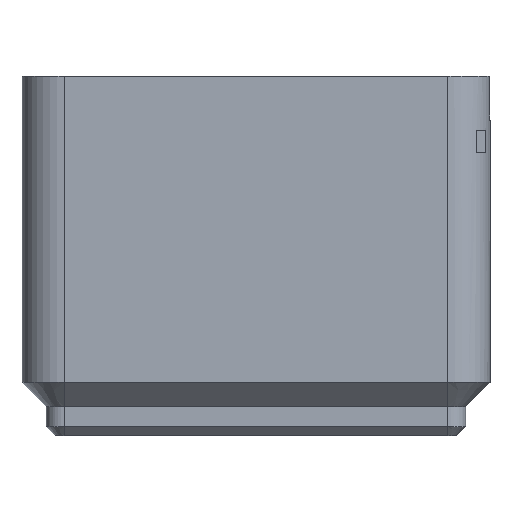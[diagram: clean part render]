
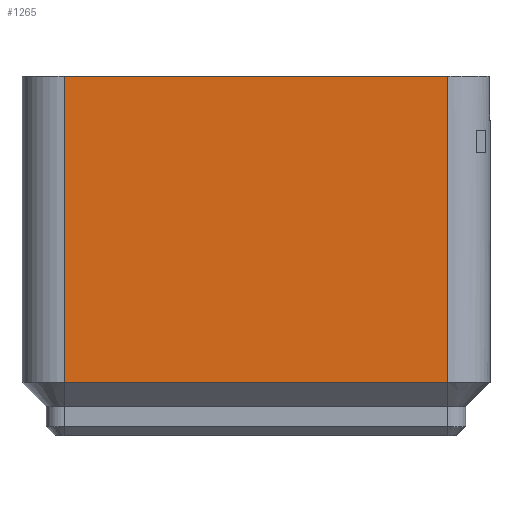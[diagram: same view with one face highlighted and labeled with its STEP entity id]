
A CAD part, left-side view. The second image highlights one B-rep face of the part: STEP entity #1265.
In plain terms, the highlighted planar face has unit normal (-1, 0, 0).
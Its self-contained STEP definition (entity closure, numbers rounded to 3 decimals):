
#417 = PLANE('',#418);
#418 = AXIS2_PLACEMENT_3D('',#419,#420,#421);
#419 = CARTESIAN_POINT('',(-20.75,0.,4.75));
#420 = DIRECTION('',(-0.707,0.,-0.707));
#421 = DIRECTION('',(0.,-1.,-0.));
#851 = VERTEX_POINT('',#852);
#852 = CARTESIAN_POINT('',(-20.75,-17.,4.75));
#870 = EDGE_CURVE('',#851,#871,#873,.T.);
#871 = VERTEX_POINT('',#872);
#872 = CARTESIAN_POINT('',(-20.75,17.,4.75));
#873 = SURFACE_CURVE('',#874,(#878,#885),.PCURVE_S1.);
#874 = LINE('',#875,#876);
#875 = CARTESIAN_POINT('',(-20.75,0.,4.75));
#876 = VECTOR('',#877,1.);
#877 = DIRECTION('',(0.,1.,0.));
#878 = PCURVE('',#417,#879);
#879 = DEFINITIONAL_REPRESENTATION('',(#880),#884);
#880 = LINE('',#881,#882);
#881 = CARTESIAN_POINT('',(0.,0.));
#882 = VECTOR('',#883,1.);
#883 = DIRECTION('',(-1.,0.));
#884 = ( GEOMETRIC_REPRESENTATION_CONTEXT(2) 
PARAMETRIC_REPRESENTATION_CONTEXT() REPRESENTATION_CONTEXT('2D SPACE',''
  ) );
#885 = PCURVE('',#886,#891);
#886 = PLANE('',#887);
#887 = AXIS2_PLACEMENT_3D('',#888,#889,#890);
#888 = CARTESIAN_POINT('',(-20.75,-17.,4.75));
#889 = DIRECTION('',(-1.,0.,0.));
#890 = DIRECTION('',(0.,1.,0.));
#891 = DEFINITIONAL_REPRESENTATION('',(#892),#896);
#892 = LINE('',#893,#894);
#893 = CARTESIAN_POINT('',(17.,0.));
#894 = VECTOR('',#895,1.);
#895 = DIRECTION('',(1.,0.));
#896 = ( GEOMETRIC_REPRESENTATION_CONTEXT(2) 
PARAMETRIC_REPRESENTATION_CONTEXT() REPRESENTATION_CONTEXT('2D SPACE',''
  ) );
#1203 = CYLINDRICAL_SURFACE('',#1204,3.75);
#1204 = AXIS2_PLACEMENT_3D('',#1205,#1206,#1207);
#1205 = CARTESIAN_POINT('',(-17.,-17.,4.75));
#1206 = DIRECTION('',(0.,0.,-1.));
#1207 = DIRECTION('',(-1.,0.,0.));
#1237 = CYLINDRICAL_SURFACE('',#1238,3.75);
#1238 = AXIS2_PLACEMENT_3D('',#1239,#1240,#1241);
#1239 = CARTESIAN_POINT('',(-17.,17.,4.75));
#1240 = DIRECTION('',(0.,0.,-1.));
#1241 = DIRECTION('',(-1.,0.,0.));
#1265 = ADVANCED_FACE('',(#1266),#886,.T.);
#1266 = FACE_BOUND('',#1267,.T.);
#1267 = EDGE_LOOP('',(#1268,#1291,#1319,#1340));
#1268 = ORIENTED_EDGE('',*,*,#1269,.T.);
#1269 = EDGE_CURVE('',#851,#1270,#1272,.T.);
#1270 = VERTEX_POINT('',#1271);
#1271 = CARTESIAN_POINT('',(-20.75,-17.,31.9));
#1272 = SURFACE_CURVE('',#1273,(#1277,#1284),.PCURVE_S1.);
#1273 = LINE('',#1274,#1275);
#1274 = CARTESIAN_POINT('',(-20.75,-17.,4.75));
#1275 = VECTOR('',#1276,1.);
#1276 = DIRECTION('',(0.,0.,1.));
#1277 = PCURVE('',#886,#1278);
#1278 = DEFINITIONAL_REPRESENTATION('',(#1279),#1283);
#1279 = LINE('',#1280,#1281);
#1280 = CARTESIAN_POINT('',(0.,0.));
#1281 = VECTOR('',#1282,1.);
#1282 = DIRECTION('',(0.,-1.));
#1283 = ( GEOMETRIC_REPRESENTATION_CONTEXT(2) 
PARAMETRIC_REPRESENTATION_CONTEXT() REPRESENTATION_CONTEXT('2D SPACE',''
  ) );
#1284 = PCURVE('',#1203,#1285);
#1285 = DEFINITIONAL_REPRESENTATION('',(#1286),#1290);
#1286 = LINE('',#1287,#1288);
#1287 = CARTESIAN_POINT('',(6.283,0.));
#1288 = VECTOR('',#1289,1.);
#1289 = DIRECTION('',(0.,-1.));
#1290 = ( GEOMETRIC_REPRESENTATION_CONTEXT(2) 
PARAMETRIC_REPRESENTATION_CONTEXT() REPRESENTATION_CONTEXT('2D SPACE',''
  ) );
#1291 = ORIENTED_EDGE('',*,*,#1292,.T.);
#1292 = EDGE_CURVE('',#1270,#1293,#1295,.T.);
#1293 = VERTEX_POINT('',#1294);
#1294 = CARTESIAN_POINT('',(-20.75,17.,31.9));
#1295 = SURFACE_CURVE('',#1296,(#1300,#1307),.PCURVE_S1.);
#1296 = LINE('',#1297,#1298);
#1297 = CARTESIAN_POINT('',(-20.75,0.,31.9));
#1298 = VECTOR('',#1299,1.);
#1299 = DIRECTION('',(0.,1.,0.));
#1300 = PCURVE('',#886,#1301);
#1301 = DEFINITIONAL_REPRESENTATION('',(#1302),#1306);
#1302 = LINE('',#1303,#1304);
#1303 = CARTESIAN_POINT('',(17.,-27.15));
#1304 = VECTOR('',#1305,1.);
#1305 = DIRECTION('',(1.,0.));
#1306 = ( GEOMETRIC_REPRESENTATION_CONTEXT(2) 
PARAMETRIC_REPRESENTATION_CONTEXT() REPRESENTATION_CONTEXT('2D SPACE',''
  ) );
#1307 = PCURVE('',#1308,#1313);
#1308 = PLANE('',#1309);
#1309 = AXIS2_PLACEMENT_3D('',#1310,#1311,#1312);
#1310 = CARTESIAN_POINT('',(0.,0.,31.9)
  );
#1311 = DIRECTION('',(0.,0.,1.));
#1312 = DIRECTION('',(1.,0.,-0.));
#1313 = DEFINITIONAL_REPRESENTATION('',(#1314),#1318);
#1314 = LINE('',#1315,#1316);
#1315 = CARTESIAN_POINT('',(-20.75,0.));
#1316 = VECTOR('',#1317,1.);
#1317 = DIRECTION('',(0.,1.));
#1318 = ( GEOMETRIC_REPRESENTATION_CONTEXT(2) 
PARAMETRIC_REPRESENTATION_CONTEXT() REPRESENTATION_CONTEXT('2D SPACE',''
  ) );
#1319 = ORIENTED_EDGE('',*,*,#1320,.F.);
#1320 = EDGE_CURVE('',#871,#1293,#1321,.T.);
#1321 = SURFACE_CURVE('',#1322,(#1326,#1333),.PCURVE_S1.);
#1322 = LINE('',#1323,#1324);
#1323 = CARTESIAN_POINT('',(-20.75,17.,4.75));
#1324 = VECTOR('',#1325,1.);
#1325 = DIRECTION('',(0.,0.,1.));
#1326 = PCURVE('',#886,#1327);
#1327 = DEFINITIONAL_REPRESENTATION('',(#1328),#1332);
#1328 = LINE('',#1329,#1330);
#1329 = CARTESIAN_POINT('',(34.,0.));
#1330 = VECTOR('',#1331,1.);
#1331 = DIRECTION('',(0.,-1.));
#1332 = ( GEOMETRIC_REPRESENTATION_CONTEXT(2) 
PARAMETRIC_REPRESENTATION_CONTEXT() REPRESENTATION_CONTEXT('2D SPACE',''
  ) );
#1333 = PCURVE('',#1237,#1334);
#1334 = DEFINITIONAL_REPRESENTATION('',(#1335),#1339);
#1335 = LINE('',#1336,#1337);
#1336 = CARTESIAN_POINT('',(0.,0.));
#1337 = VECTOR('',#1338,1.);
#1338 = DIRECTION('',(0.,-1.));
#1339 = ( GEOMETRIC_REPRESENTATION_CONTEXT(2) 
PARAMETRIC_REPRESENTATION_CONTEXT() REPRESENTATION_CONTEXT('2D SPACE',''
  ) );
#1340 = ORIENTED_EDGE('',*,*,#870,.F.);
